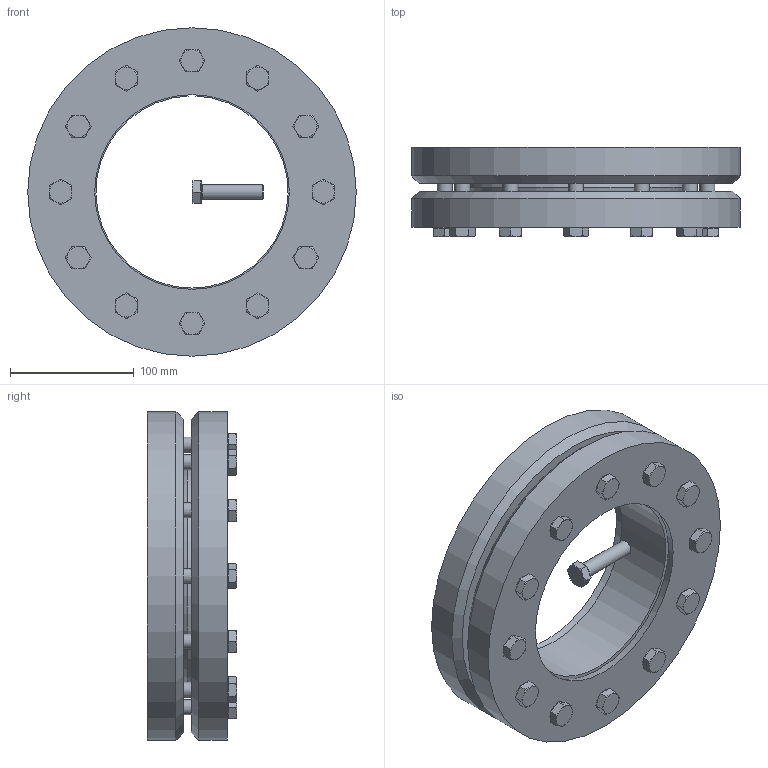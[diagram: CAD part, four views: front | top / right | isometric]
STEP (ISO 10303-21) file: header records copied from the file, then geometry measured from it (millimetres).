
FILE_DESCRIPTION( ( 'Unknown' ), '1' );
FILE_NAME( 'C:/Dokumente und Einstellungen/Sven/Desktop/homepage/cad - homepage/KBS19/KBS 19 - 155 x 265.stp', 'Unknown', ( 'Unknown' ), ( 'Unknown' ), 'XStep 1.0', 'Unknown', ' ' );
FILE_SCHEMA( ( 'automotive_design' ) );
Length unit declared in the file: millimetre
Products named in the file (3): Assem1; KBS 19 - 155 x 265; ISO 4017 - M12 x 50-N
Bounding box: 265 x 72 x 265 mm (x, y, z)
Volume: 4126508 mm3; surface area: 511882 mm2
Topology: 15 solids, 15 shells, 419 faces, 978 edges, 602 vertices
Faces by surface type: plane 223, cone 103, cylinder 80, torus 13
Full cylindrical faces by diameter (mm): 12 x61, 18 x13, 265 x4
Entity records: 2592 total; most frequent: CARTESIAN_POINT 409, DIRECTION 382, ORIENTED_EDGE 284, AXIS2_PLACEMENT_3D 170, EDGE_LOOP 159, EDGE_CURVE 142, VERTEX_POINT 109, FACE_OUTER_BOUND 101
